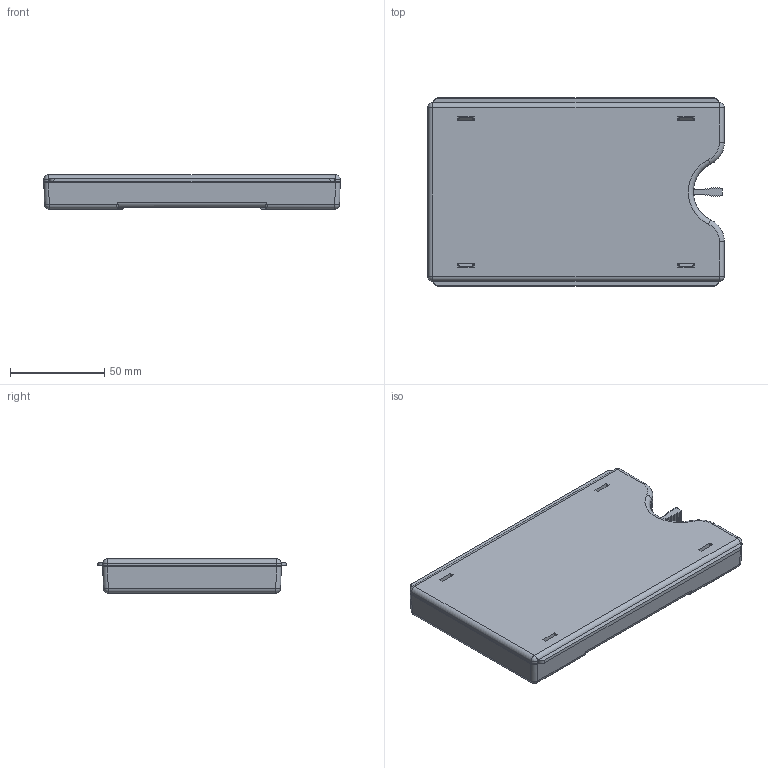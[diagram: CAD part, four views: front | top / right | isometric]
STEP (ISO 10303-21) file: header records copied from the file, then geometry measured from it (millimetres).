
FILE_DESCRIPTION((''),'2;1');
FILE_NAME('CD_PXI_SLOT_BLOCKER','2013-10-29T',('talbott'),(''),'PRO/ENGINEER BY PARAMETRIC TECHNOLOGY CORPORATION, 2011490','PRO/ENGINEER BY PARAMETRIC TECHNOLOGY CORPORATION, 2011490','');
FILE_SCHEMA(('CONFIG_CONTROL_DESIGN'));
Products named in the file (1): CD_PXI_SLOT_BLOCKER
Bounding box: 157.53 x 99.99 x 18.16 mm (x, y, z)
Volume: 38031.7 mm3; surface area: 81932.4 mm2
Topology: 1 solids, 2 shells, 2045 faces, 4662 edges, 2815 vertices
Faces by surface type: plane 679, torus 622, cylinder 403, bspline 254, cone 72, sphere 15
Entity records: 74524 total; most frequent: CARTESIAN_POINT 29965, ORIENTED_EDGE 9318, DIRECTION 9132, EDGE_CURVE 4659, AXIS2_PLACEMENT_3D 3661, VERTEX_POINT 2815, EDGE_LOOP 2258, FACE_OUTER_BOUND 2045
